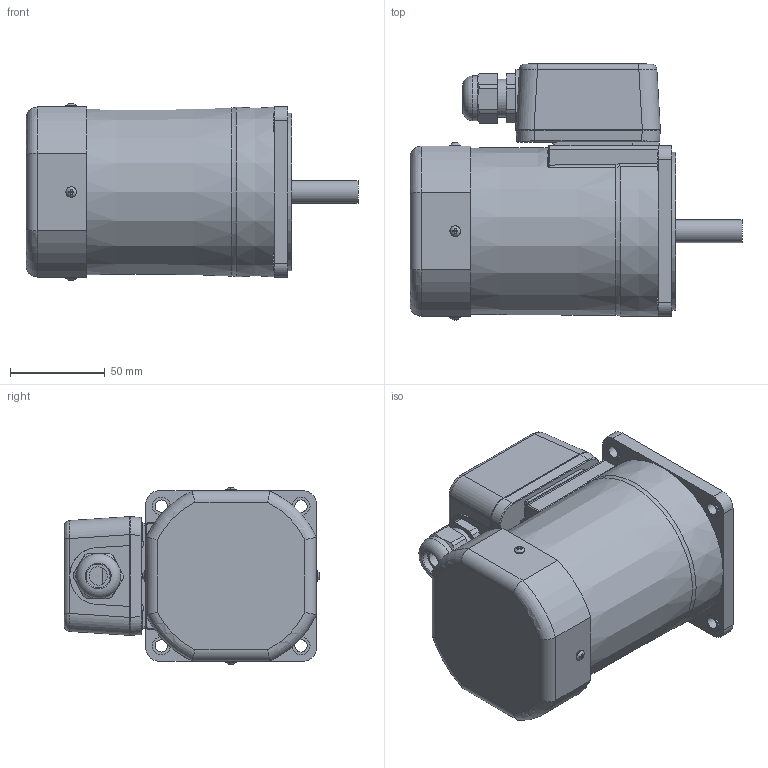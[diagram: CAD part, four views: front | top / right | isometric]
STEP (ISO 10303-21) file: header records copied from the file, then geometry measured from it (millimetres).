
FILE_DESCRIPTION((''),'2;1');
FILE_NAME('D:\김성묵\업무폴더\개발 파일\프로젝트 개발 AB등급\AC표준형 개발자료\90각 이하 표준형 개발\도면작성 자료\3D 도면\홈페이지용 3D 파일\90W MOTOR\T BOX TYPE\S9(I,R)90S-T.stp','2015-03-26T19:03:35',('smkim'),(''),'Autodesk Inventor 2012','Autodesk Inventor 2012','');
FILE_SCHEMA(('AUTOMOTIVE_DESIGN { 1 0 10303 214 1 1 1 1 }'));
Length unit declared in the file: millimetre
Products named in the file (7): S9(I,R)90S-T; S9I90GㅁTCE; FAN COVER; 552300620; 25W_T_BOX; S9I60S
Assembly tree (9 placements, depth 3):
  S9(I,R)90S-T
    S9I90GㅁTCE
    FAN COVER
      FAN COVER
      552300620  x4
    25W_T_BOX
    S9I60S
Bounding box: 174.8 x 134.75 x 93.49 mm (x, y, z)
Volume: 1171230 mm3; surface area: 117894.5 mm2
Topology: 8 solids, 15 shells, 494 faces, 1183 edges, 754 vertices
Faces by surface type: plane 262, cylinder 131, bspline 55, torus 33, cone 13
Full cylindrical faces by diameter (mm): 2.55 x2, 3 x8, 3.5 x4, 5.6 x8, 6.3 x4, 6.5 x4, 7 x1, 9 x1, 9.5 x4, 12 x1, 12.5 x1, 15 x1, 20 x2, 21 x1, 23.6 x1, 40 x1, 83 x1, 86 x1
Entity records: 14578 total; most frequent: CARTESIAN_POINT 4601, ORIENTED_EDGE 1898, DIRECTION 1888, EDGE_CURVE 949, AXIS2_PLACEMENT_3D 700, VERTEX_POINT 644, EDGE_LOOP 543, VECTOR 488
